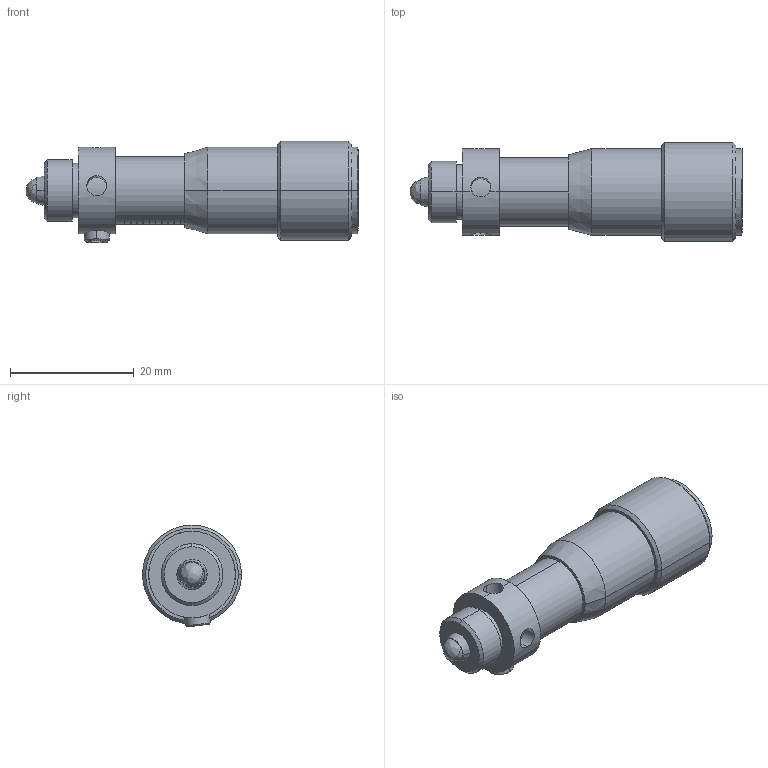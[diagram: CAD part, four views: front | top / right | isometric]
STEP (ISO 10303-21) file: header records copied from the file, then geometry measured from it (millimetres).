
FILE_DESCRIPTION (( 'STEP AP203' ), '1' );
FILE_NAME ('9S75ML-10.STEP', '2011-12-08T12:33:17', ( 'Darius' ), ( '' ), 'SwSTEP 2.0', 'SolidWorks 2003240', '' );
FILE_SCHEMA (( 'CONFIG_CONTROL_DESIGN' ));
Length unit declared in the file: millimetre
Products named in the file (1): 9S75ML-10
Bounding box: 53.66 x 16 x 16.45 mm (x, y, z)
Volume: 7126.2 mm3; surface area: 2750.2 mm2
Topology: 1 solids, 1 shells, 179 faces, 418 edges, 270 vertices
Faces by surface type: plane 110, cylinder 53, cone 14, bspline 2
Entity records: 5561 total; most frequent: CARTESIAN_POINT 1302, DIRECTION 900, ORIENTED_EDGE 828, EDGE_CURVE 414, AXIS2_PLACEMENT_3D 328, VERTEX_POINT 270, VECTOR 244, LINE 244
